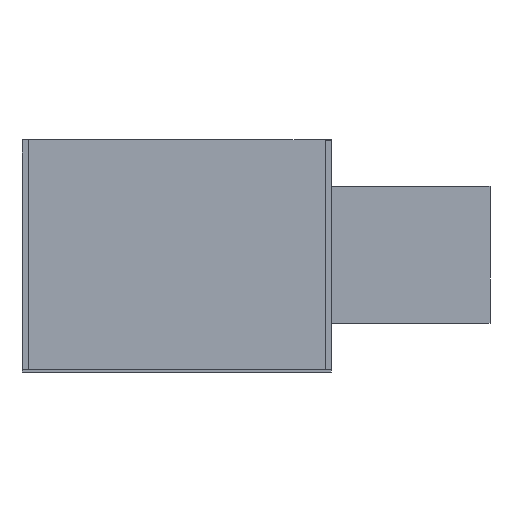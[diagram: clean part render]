
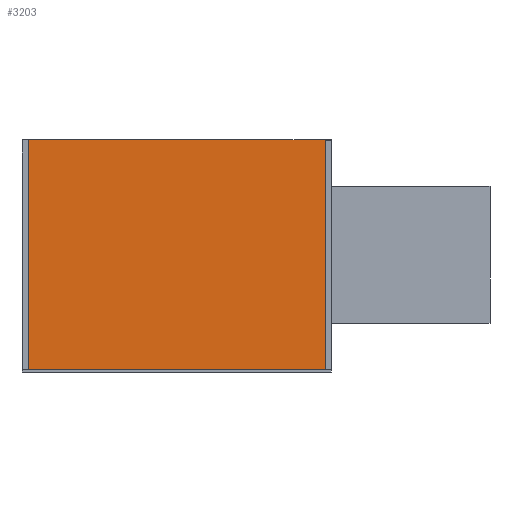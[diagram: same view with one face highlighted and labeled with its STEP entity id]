
A CAD part, left-side view. The second image highlights one B-rep face of the part: STEP entity #3203.
In plain terms, the highlighted planar face has unit normal (-1, 0, 0) as drawn and (0, 0, 1) by its records, which use the part's own axes.
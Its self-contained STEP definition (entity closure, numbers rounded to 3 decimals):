
#74 = DIRECTION ( 'NONE',  ( 0., 0., -1. ) ) ;
#225 = ORIENTED_EDGE ( 'NONE', *, *, #1417, .T. ) ;
#294 = DIRECTION ( 'NONE',  ( -1., 0., 0. ) ) ;
#310 = VERTEX_POINT ( 'NONE', #6334 ) ;
#574 = ORIENTED_EDGE ( 'NONE', *, *, #6410, .T. ) ;
#583 = CARTESIAN_POINT ( 'NONE',  ( -444.976, 73.887, 0. ) ) ;
#633 = LINE ( 'NONE', #2921, #4532 ) ;
#660 = ORIENTED_EDGE ( 'NONE', *, *, #3892, .T. ) ;
#749 = CIRCLE ( 'NONE', #7346, 0.2 ) ;
#977 = VERTEX_POINT ( 'NONE', #4182 ) ;
#1210 = CARTESIAN_POINT ( 'NONE',  ( -148.176, 457.487, 0. ) ) ;
#1229 = AXIS2_PLACEMENT_3D ( 'NONE', #5894, #74, #2940 ) ;
#1350 = VECTOR ( 'NONE', #6964, 1000. ) ;
#1357 = DIRECTION ( 'NONE',  ( -1., 0., 0. ) ) ;
#1373 = CIRCLE ( 'NONE', #1854, 0.2 ) ;
#1417 = EDGE_CURVE ( 'NONE', #6267, #977, #749, .T. ) ;
#1666 = LINE ( 'NONE', #3523, #1350 ) ;
#1764 = DIRECTION ( 'NONE',  ( -1., 0., 0. ) ) ;
#1854 = AXIS2_PLACEMENT_3D ( 'NONE', #7365, #2603, #4946 ) ;
#1866 = CIRCLE ( 'NONE', #5304, 0.2 ) ;
#1919 = EDGE_CURVE ( 'NONE', #3298, #2382, #1666, .T. ) ;
#1944 = CARTESIAN_POINT ( 'NONE',  ( -445.176, 457.687, 0. ) ) ;
#2212 = VERTEX_POINT ( 'NONE', #7413 ) ;
#2382 = VERTEX_POINT ( 'NONE', #2409 ) ;
#2390 = EDGE_CURVE ( 'NONE', #2212, #977, #633, .T. ) ;
#2409 = CARTESIAN_POINT ( 'NONE',  ( -148.176, 73.887, 0. ) ) ;
#2603 = DIRECTION ( 'NONE',  ( 0., 0., 1. ) ) ;
#2811 = ORIENTED_EDGE ( 'NONE', *, *, #2390, .F. ) ;
#2921 = CARTESIAN_POINT ( 'NONE',  ( -148.176, 73.687, 0. ) ) ;
#2940 = DIRECTION ( 'NONE',  ( -1., 0., 0. ) ) ;
#3053 = ORIENTED_EDGE ( 'NONE', *, *, #1919, .F. ) ;
#3131 = CARTESIAN_POINT ( 'NONE',  ( -444.976, 457.687, 0. ) ) ;
#3151 = LINE ( 'NONE', #1944, #5648 ) ;
#3203 = ADVANCED_FACE ( 'NONE', ( #4661 ), #5355, .F. ) ;
#3211 = EDGE_LOOP ( 'NONE', ( #6391, #225, #2811, #574, #3053, #660, #6311, #5477 ) ) ;
#3298 = VERTEX_POINT ( 'NONE', #1210 ) ;
#3358 = CARTESIAN_POINT ( 'NONE',  ( -148.376, 73.887, 0. ) ) ;
#3523 = CARTESIAN_POINT ( 'NONE',  ( -148.176, 457.687, 0. ) ) ;
#3595 = CARTESIAN_POINT ( 'NONE',  ( -445.176, 457.487, 0. ) ) ;
#3892 = EDGE_CURVE ( 'NONE', #3298, #310, #5148, .T. ) ;
#4059 = DIRECTION ( 'NONE',  ( -1., 0., 0. ) ) ;
#4182 = CARTESIAN_POINT ( 'NONE',  ( -444.976, 73.687, 0. ) ) ;
#4267 = DIRECTION ( 'NONE',  ( 0., 0., 1. ) ) ;
#4315 = EDGE_CURVE ( 'NONE', #6267, #5192, #3151, .T. ) ;
#4438 = DIRECTION ( 'NONE',  ( 1., 0., 0. ) ) ;
#4532 = VECTOR ( 'NONE', #1764, 1000. ) ;
#4661 = FACE_OUTER_BOUND ( 'NONE', #3211, .T. ) ;
#4896 = CARTESIAN_POINT ( 'NONE',  ( -148.176, 457.687, 0. ) ) ;
#4946 = DIRECTION ( 'NONE',  ( -1., 0., 0. ) ) ;
#5063 = VECTOR ( 'NONE', #4438, 1000. ) ;
#5148 = CIRCLE ( 'NONE', #5272, 0.2 ) ;
#5192 = VERTEX_POINT ( 'NONE', #3595 ) ;
#5272 = AXIS2_PLACEMENT_3D ( 'NONE', #7228, #4267, #1357 ) ;
#5304 = AXIS2_PLACEMENT_3D ( 'NONE', #3358, #6216, #294 ) ;
#5340 = VERTEX_POINT ( 'NONE', #3131 ) ;
#5355 = PLANE ( 'NONE',  #1229 ) ;
#5447 = DIRECTION ( 'NONE',  ( 0., 1., 0. ) ) ;
#5477 = ORIENTED_EDGE ( 'NONE', *, *, #5484, .T. ) ;
#5484 = EDGE_CURVE ( 'NONE', #5340, #5192, #1373, .T. ) ;
#5497 = CARTESIAN_POINT ( 'NONE',  ( -445.176, 73.887, 0. ) ) ;
#5648 = VECTOR ( 'NONE', #5447, 1000. ) ;
#5894 = CARTESIAN_POINT ( 'NONE',  ( -148.176, 73.687, 0. ) ) ;
#6092 = LINE ( 'NONE', #4896, #5063 ) ;
#6216 = DIRECTION ( 'NONE',  ( 0., 0., 1. ) ) ;
#6267 = VERTEX_POINT ( 'NONE', #5497 ) ;
#6311 = ORIENTED_EDGE ( 'NONE', *, *, #7280, .F. ) ;
#6334 = CARTESIAN_POINT ( 'NONE',  ( -148.376, 457.687, 0. ) ) ;
#6391 = ORIENTED_EDGE ( 'NONE', *, *, #4315, .F. ) ;
#6410 = EDGE_CURVE ( 'NONE', #2212, #2382, #1866, .T. ) ;
#6964 = DIRECTION ( 'NONE',  ( 0., -1., 0. ) ) ;
#7018 = DIRECTION ( 'NONE',  ( 0., 0., 1. ) ) ;
#7228 = CARTESIAN_POINT ( 'NONE',  ( -148.376, 457.487, 0. ) ) ;
#7280 = EDGE_CURVE ( 'NONE', #5340, #310, #6092, .T. ) ;
#7346 = AXIS2_PLACEMENT_3D ( 'NONE', #583, #7018, #4059 ) ;
#7365 = CARTESIAN_POINT ( 'NONE',  ( -444.976, 457.487, 0. ) ) ;
#7413 = CARTESIAN_POINT ( 'NONE',  ( -148.376, 73.687, 0. ) ) ;
